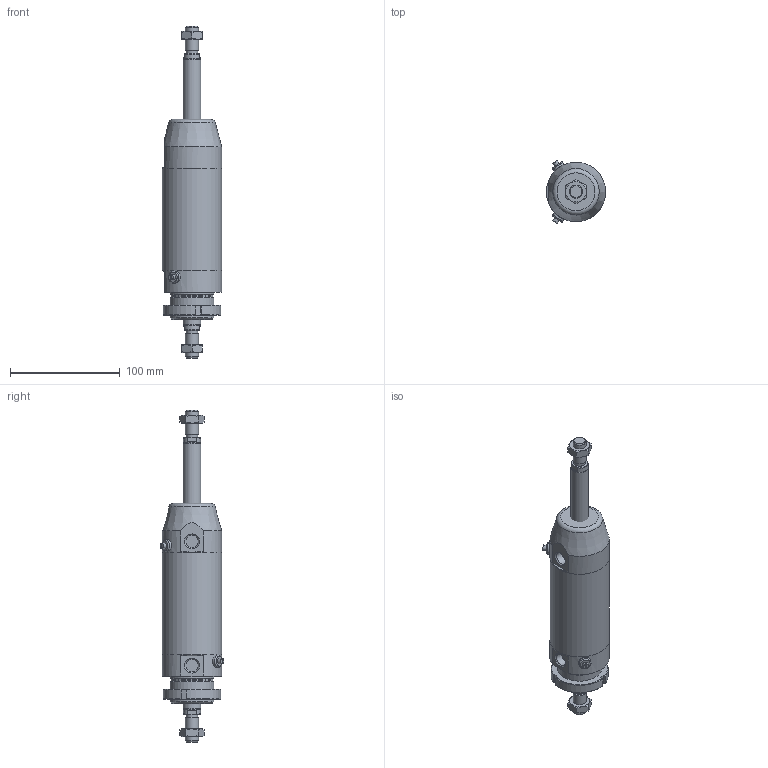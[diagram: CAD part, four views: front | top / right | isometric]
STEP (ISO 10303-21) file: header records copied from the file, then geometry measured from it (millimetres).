
FILE_DESCRIPTION(/* description */ (''),/* implementation_level */ '2;1');
FILE_NAME(/* name */ 'I:\Area Tecnica\Documenti\A-Manieri\_Inventor\12X\12X#T_###_####_#_#\12XDT_050_0050_#_#.stp',/* time_stamp */ '2015-05-13T09:08:49+02:00',/* author */ ('maniean1'),/* organization */ ('Pneumax S.p.A.'),/* preprocessor_version */ 'ST-DEVELOPER v15.2',/* originating_system */ 'Autodesk Inventor 2014',/* authorisation */ '');
FILE_SCHEMA (('AUTOMOTIVE_DESIGN { 1 0 10303 214 3 1 1 }'));
Length unit declared in the file: millimetre
Products named in the file (7): C1250_619-0050; 12X50_606; SP12X50_0050; 12X_50_11; 12X50_614; G12X_050_05; 12XDT_050_0050_#_#
Bounding box: 54 x 57.75 x 302 mm (x, y, z)
Volume: 320910.4 mm3; surface area: 86081.1 mm2
Topology: 7 solids, 7 shells, 125 faces, 280 edges, 180 vertices
Faces by surface type: plane 66, cylinder 30, cone 26, torus 3
Full cylindrical faces by diameter (mm): 5 x2, 10.2 x2, 11 x2, 11.4 x2, 12 x4, 14 x2, 15.6 x2, 16 x2, 38.2 x1, 40 x3, 50 x2, 54 x3
Entity records: 3058 total; most frequent: CARTESIAN_POINT 614, DIRECTION 513, ORIENTED_EDGE 402, AXIS2_PLACEMENT_3D 219, EDGE_CURVE 201, EDGE_LOOP 178, VERTEX_POINT 153, ADVANCED_FACE 114
